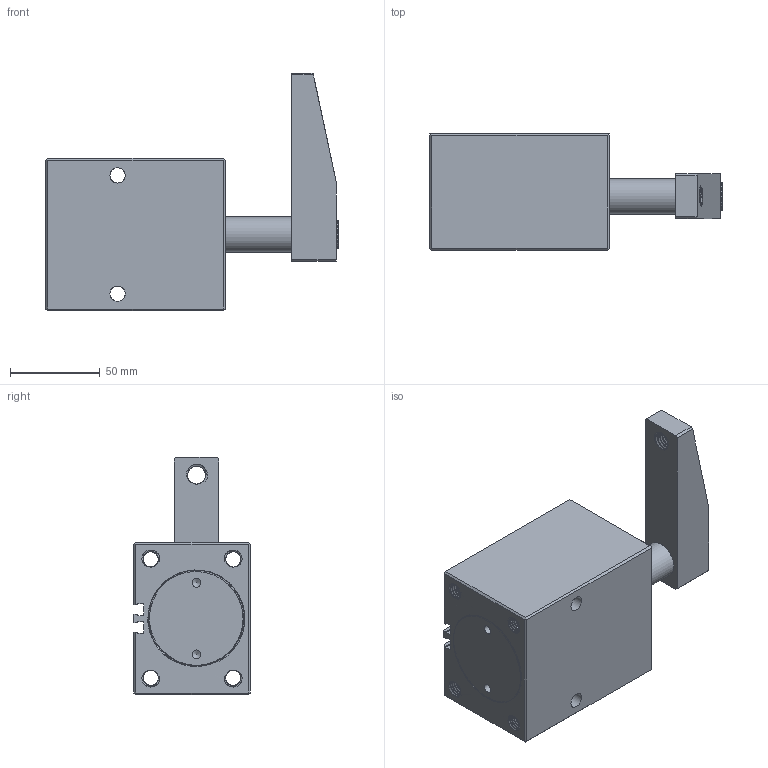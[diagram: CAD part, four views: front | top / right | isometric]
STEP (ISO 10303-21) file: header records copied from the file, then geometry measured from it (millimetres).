
FILE_DESCRIPTION(/* description */ (''),/* implementation_level */ '2;1');
FILE_NAME(/* name */ 'E:\SERWER_ZAPAS\Pneumatic\PSB PNEUMATIC SWING\PSB-50\PSB-50R_OTWARTY.stp',/* time_stamp */ '2019-02-05T13:00:52+01:00',/* author */ ('Admin'),/* organization */ (''),/* preprocessor_version */ 'ST-DEVELOPER v17.2',/* originating_system */ 'Autodesk Inventor 2019',/* authorisation */ '');
FILE_SCHEMA (('AUTOMOTIVE_DESIGN { 1 0 10303 214 3 1 1 }'));
Products named in the file (6): PSB-50R_OTWARTY; PSB-50BT; PSB-50HSG; PSB-50HG; PSB-50YB; M10LC
Assembly tree (5 placements, depth 2):
  PSB-50R_OTWARTY
    PSB-50BT
    PSB-50HSG
    PSB-50HG
    PSB-50YB
    M10LC
Bounding box: 163 x 65 x 132.5 mm (x, y, z)
Volume: 502763.9 mm3; surface area: 116553.8 mm2
Topology: 5 solids, 5 shells, 408 faces, 1163 edges, 780 vertices
Faces by surface type: cylinder 194, bspline 97, plane 95, torus 14, cone 8
Full cylindrical faces by diameter (mm): 1.5 x2, 5 x2, 8 x16, 8.5 x103, 10 x21, 11 x1, 14 x4, 16 x1, 17 x1, 20 x2, 34 x1, 40 x1, 45 x1, 46 x1, 50 x7, 52 x6, 54 x8, 55 x1
Entity records: 52878 total; most frequent: CARTESIAN_POINT 43078, ORIENTED_EDGE 2320, DIRECTION 1474, EDGE_CURVE 1160, VERTEX_POINT 780, B_SPLINE_CURVE_WITH_KNOTS 529, AXIS2_PLACEMENT_3D 520, EDGE_LOOP 456
